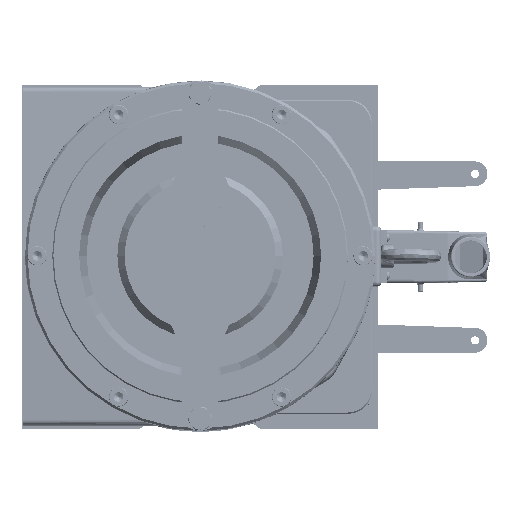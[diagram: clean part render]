
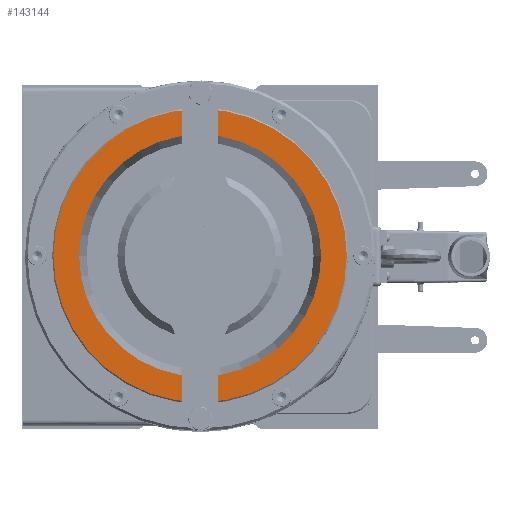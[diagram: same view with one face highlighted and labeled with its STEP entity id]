
A CAD part, top view. The second image highlights one B-rep face of the part: STEP entity #143144.
In plain terms, the highlighted planar face has unit normal (0, 0, 1).
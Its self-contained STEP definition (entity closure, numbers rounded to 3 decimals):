
#3737 = DIRECTION ( 'NONE',  ( 0., 0., -1. ) ) ;
#6991 = CARTESIAN_POINT ( 'NONE',  ( -22.337, 5.707, 350. ) ) ;
#23757 = CARTESIAN_POINT ( 'NONE',  ( -22.337, 5.707, 350. ) ) ;
#32228 = EDGE_LOOP ( 'NONE', ( #142662, #56529 ) ) ;
#33524 = CARTESIAN_POINT ( 'NONE',  ( 19.175, 119.895, 350. ) ) ;
#35694 = EDGE_CURVE ( 'NONE', #110585, #90682, #105206, .T. ) ;
#37838 = DIRECTION ( 'NONE',  ( 0., 0., -1. ) ) ;
#41473 = EDGE_CURVE ( 'NONE', #140521, #56691, #138371, .T. ) ;
#48922 = CARTESIAN_POINT ( 'NONE',  ( -22.337, 5.707, 350. ) ) ;
#53004 = CARTESIAN_POINT ( 'NONE',  ( -22.337, 5.707, 350. ) ) ;
#56310 = CIRCLE ( 'NONE', #141755, 121.5 ) ;
#56529 = ORIENTED_EDGE ( 'NONE', *, *, #41473, .T. ) ;
#56691 = VERTEX_POINT ( 'NONE', #67212 ) ;
#61362 = DIRECTION ( 'NONE',  ( 0., 0., 1. ) ) ;
#65233 = AXIS2_PLACEMENT_3D ( 'NONE', #48922, #91724, #146141 ) ;
#67212 = CARTESIAN_POINT ( 'NONE',  ( -56.568, -88.451, 350. ) ) ;
#78185 = DIRECTION ( 'NONE',  ( 0.342, 0.94, 0. ) ) ;
#90682 = VERTEX_POINT ( 'NONE', #33524 ) ;
#91724 = DIRECTION ( 'NONE',  ( 0., 0., 1. ) ) ;
#92281 = DIRECTION ( 'NONE',  ( 0.342, 0.94, 0. ) ) ;
#95528 = CARTESIAN_POINT ( 'NONE',  ( -63.85, -108.481, 350. ) ) ;
#97368 = CARTESIAN_POINT ( 'NONE',  ( -64.191, -109.421, 350. ) ) ;
#105206 = CIRCLE ( 'NONE', #65233, 121.5 ) ;
#108323 = CIRCLE ( 'NONE', #114059, 100.187 ) ;
#109143 = EDGE_LOOP ( 'NONE', ( #131376, #109894 ) ) ;
#109894 = ORIENTED_EDGE ( 'NONE', *, *, #35694, .T. ) ;
#110585 = VERTEX_POINT ( 'NONE', #95528 ) ;
#111647 = FACE_OUTER_BOUND ( 'NONE', #109143, .T. ) ;
#112261 = EDGE_CURVE ( 'NONE', #90682, #110585, #56310, .T. ) ;
#112532 = FACE_BOUND ( 'NONE', #32228, .T. ) ;
#114059 = AXIS2_PLACEMENT_3D ( 'NONE', #23757, #145960, #78185 ) ;
#131376 = ORIENTED_EDGE ( 'NONE', *, *, #112261, .T. ) ;
#136703 = CARTESIAN_POINT ( 'NONE',  ( 11.893, 99.866, 350. ) ) ;
#138371 = CIRCLE ( 'NONE', #175474, 100.187 ) ;
#140521 = VERTEX_POINT ( 'NONE', #136703 ) ;
#141755 = AXIS2_PLACEMENT_3D ( 'NONE', #6991, #61362, #170237 ) ;
#142662 = ORIENTED_EDGE ( 'NONE', *, *, #154935, .T. ) ;
#143144 = ADVANCED_FACE ( 'NONE', ( #111647, #112532 ), #165233, .F. ) ;
#145960 = DIRECTION ( 'NONE',  ( 0., 0., -1. ) ) ;
#146141 = DIRECTION ( 'NONE',  ( 0.342, 0.94, 0. ) ) ;
#154935 = EDGE_CURVE ( 'NONE', #56691, #140521, #108323, .T. ) ;
#164351 = DIRECTION ( 'NONE',  ( 0.342, 0.94, 0. ) ) ;
#165233 = PLANE ( 'NONE',  #166774 ) ;
#166774 = AXIS2_PLACEMENT_3D ( 'NONE', #97368, #3737, #164351 ) ;
#170237 = DIRECTION ( 'NONE',  ( 0.342, 0.94, 0. ) ) ;
#175474 = AXIS2_PLACEMENT_3D ( 'NONE', #53004, #37838, #92281 ) ;
